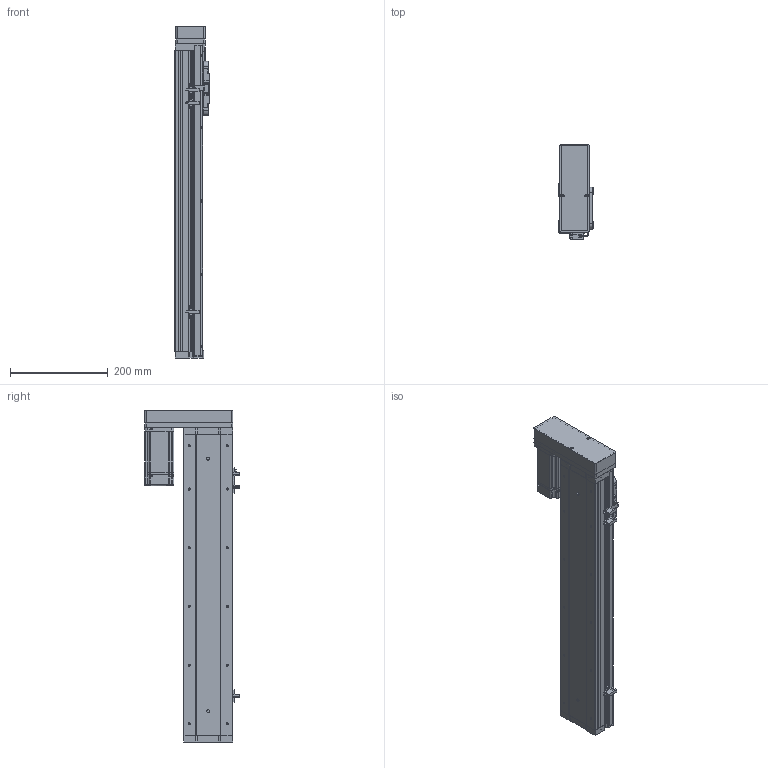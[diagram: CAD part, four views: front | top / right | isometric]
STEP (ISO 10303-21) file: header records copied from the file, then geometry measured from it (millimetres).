
FILE_DESCRIPTION (( 'STEP AP203' ), '1' );
FILE_NAME ('KSD100S-S450-ML-CR.STEP', '2019-09-02T08:10:11', ( '微软用户' ), ( '微软中国' ), 'SwSTEP 2.0', 'SolidWorks 2014', '' );
FILE_SCHEMA (( 'CONFIG_CONTROL_DESIGN' ));
Length unit declared in the file: millimetre
Products named in the file (14): MHMD042G1CA_2_03; 100宽滚珠螺姆安装板1; KSD100S-S450-ML-CR; 100宽滚珠螺姆安装板1防护罩; 100宽端板全封闭; 100宽马达安装板全封闭; 感应片100宽全封闭; 100宽底板全封闭450行程丝杆; U倰嫖萇EEㄜSX672; 100遵耜啣450俴最佪裝; 100宽马达安装板连板左右折丝杆; 100遵裔啣450俴最; 悵誘欶酘衵殏; 100遵裔啣揤啣
Assembly tree (17 placements, depth 2):
  KSD100S-S450-ML-CR
    100宽底板全封闭450行程丝杆
    100遵耜啣450俴最佪裝  x2
    100遵裔啣450俴最
    100遵裔啣揤啣  x2
    100宽滚珠螺姆安装板1
    100宽滚珠螺姆安装板1防护罩
    100宽端板全封闭
    100宽马达安装板全封闭
    感应片100宽全封闭
    U倰嫖萇EEㄜSX672  x3
    100宽马达安装板连板左右折丝杆
    悵誘欶酘衵殏
    MHMD042G1CA_2_03
Bounding box: 70 x 193.7 x 678.5 mm (x, y, z)
Volume: 1449865.8 mm3; surface area: 670802.2 mm2
Topology: 16 solids, 17 shells, 1629 faces, 4538 edges, 2904 vertices
Faces by surface type: cylinder 699, plane 699, cone 213, bspline 18
Entity records: 45717 total; most frequent: CARTESIAN_POINT 8492, DIRECTION 7735, ORIENTED_EDGE 7164, EDGE_CURVE 3654, AXIS2_PLACEMENT_3D 2759, VERTEX_POINT 2422, LINE 2217, VECTOR 2217
